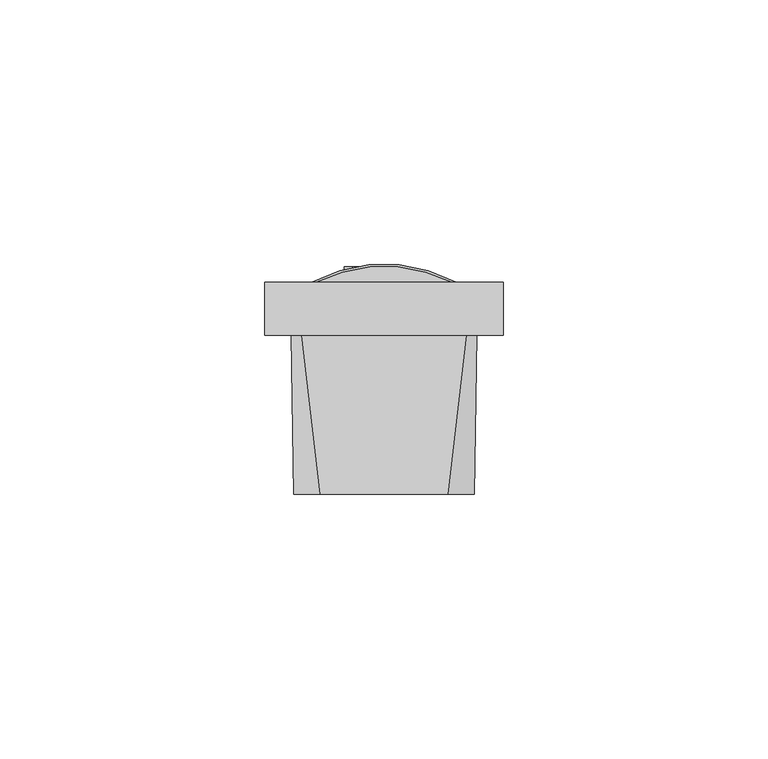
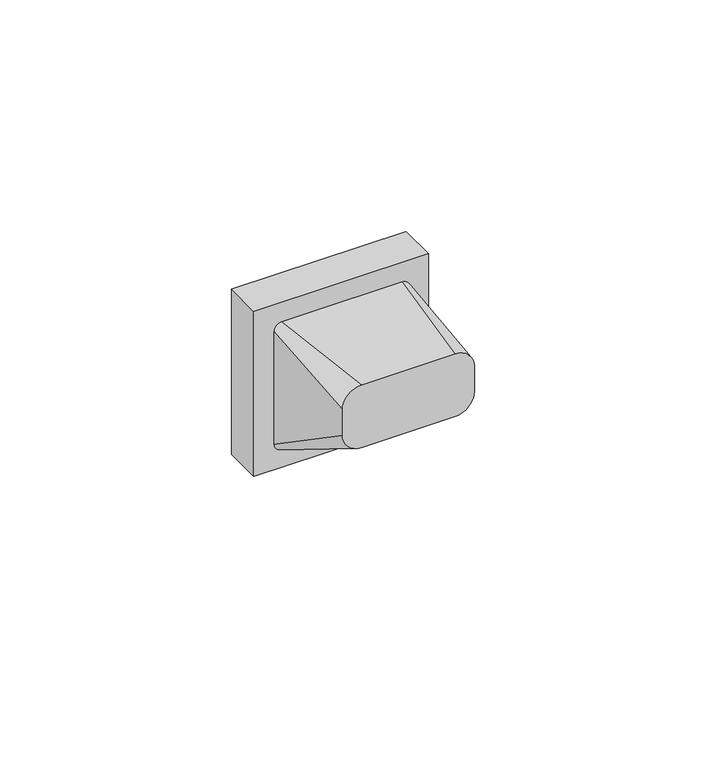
"""IFC4 building model written with IfcOpenShell, lengths in millimetres: proxy geometry, IEK_Skandy_Механизм выключателя : ДД_SK-S01B."""

from ifc_helpers import new_model, si_unit, point, frame, frame_2d, origin, place, context, project, spatial, polyline, circle_curve, trimmed, segment, composite_curve, outline, extrude, source, transform, mapped, element, save
from ifc_brep_helpers import plane_surface, cylinder_surface, revolved_surface, spline_surface, advanced_brep


def electrical_fixtures_6e65c7f1(model_context):
    return source(origin(), model_context, "Body", "SolidModel", [
        advanced_brep(
        [(-22.5, 10.0, -22.5), (-22.5, 10.0, 22.5), (22.5, 10.0, 22.5), (22.5, 10.0, -22.5), (6.0000251, 10.0, -11.1771032), (-6.0000251, 10.0, -11.1771032), (-6.0000251, 10.0, -15.1771032), (6.0000251, 10.0, -15.1771032), (-11.7452249, 10.0, -9.0), (11.7452249, 10.0, -9.0), (11.7452249, 10.0, 9.0), (-11.7452249, 10.0, 9.0), (12.7507341, 10.0, 11.0), (-12.7507341, 10.0, 11.0), (-12.7507341, 10.0, 10.0), (12.7507341, 10.0, 10.0), (-12.7507341, 10.0, -11.0), (12.7507341, 10.0, -11.0), (12.7507341, 10.0, -10.0), (-12.7507341, 10.0, -10.0), (-22.5, 0.0, -22.5), (22.5, 0.0, -22.5), (22.5, 0.0, 22.5), (-22.5, 0.0, 22.5), (6.0000251, 2.0, -11.1771032), (6.0000251, 2.0, -15.1771032), (-6.0000251, 2.0, -15.1771032), (-6.0000251, 2.0, -11.1771032), (-6.0000251, 2.0, -11.6771032), (-6.0000251, 2.0, -14.6771032), (-2.4374749, 2.0, -14.6771032), (-2.4374749, 2.0, -11.6771032), (6.4162542, 4.6710293, -9.0), (-6.4162542, 4.6710293, -9.0), (6.4162542, 4.6710293, 9.0), (-6.4162542, 4.6710293, 9.0), (-6.0000251, 12.9624821, -11.6771032), (-2.4374749, 12.9624821, -11.6771032), (-2.4374749, 12.9624821, -14.6771032), (-6.0000251, 12.9624821, -14.6771032)],
        [
            (0, 1),
            (1, 2),
            (2, 3),
            (3, 0),
            (4, 5),
            (5, 6, circle_curve(frame((-6.0000251, 10.0, -13.1771032), z_axis=(0.0, -1.0, 0.0), x_axis=(1.0, 0.0, 0.0)), 2.0)),
            (6, 7),
            (7, 4, circle_curve(frame((6.0000251, 10.0, -13.1771032), z_axis=(0.0, -1.0, 0.0), x_axis=(1.0, 0.0, 0.0)), 2.0)),
            (8, 9),
            (9, 10),
            (10, 11),
            (11, 8),
            (12, 13),
            (13, 14),
            (14, 15),
            (15, 12),
            (16, 17),
            (17, 18),
            (18, 19),
            (19, 16),
            (20, 21),
            (21, 22),
            (22, 23),
            (23, 20),
            (3, 21),
            (20, 0),
            (2, 22),
            (1, 23),
            (24, 25, circle_curve(frame((6.0000251, 2.0, -13.1771032), z_axis=(0.0, 1.0, 0.0), x_axis=(1.0, 0.0, 0.0)), 2.0)),
            (25, 26),
            (26, 27, circle_curve(frame((-6.0000251, 2.0, -13.1771032), z_axis=(0.0, 1.0, 0.0), x_axis=(1.0, 0.0, 0.0)), 2.0)),
            (27, 24),
            (28, 29, circle_curve(frame((-6.0000251, 2.0, -13.1771032), z_axis=(0.0, -1.0, 0.0), x_axis=(1.0, 0.0, 0.0)), 1.5)),
            (29, 30),
            (30, 31, circle_curve(frame((-2.4374749, 2.0, -13.1771032), z_axis=(0.0, -1.0, 0.0), x_axis=(1.0, 0.0, 0.0)), 1.5)),
            (31, 28),
            (27, 5),
            (4, 24),
            (26, 6),
            (25, 7),
            (32, 9),
            (8, 33),
            (33, 32),
            (34, 35),
            (35, 11),
            (10, 34),
            (32, 34),
            (33, 35),
            (12, 13, circle_curve(frame((0.0, -15.3680789, 11.0), z_axis=(0.0, 0.0, 1.0), x_axis=(1.0, 0.0, 0.0)), 28.3922638)),
            (14, 15, circle_curve(frame((0.0, -15.3680789, 10.0), z_axis=(0.0, 0.0, -1.0), x_axis=(1.0, 0.0, 0.0)), 28.3922638)),
            (16, 17, circle_curve(frame((0.0, -15.3680789, -11.0), z_axis=(0.0, 0.0, -1.0), x_axis=(0.0, -1.0, 0.0)), 28.3922638)),
            (18, 19, circle_curve(frame((0.0, -15.3680789, -10.0), z_axis=(0.0, 0.0, 1.0), x_axis=(0.0, -1.0, 0.0)), 28.3922638)),
            (36, 37),
            (37, 38, circle_curve(frame((-2.4374749, 12.9624821, -13.1771032), z_axis=(0.0, 1.0, 0.0), x_axis=(1.0, 0.0, 0.0)), 1.5)),
            (38, 39),
            (39, 36, circle_curve(frame((-6.0000251, 12.9624821, -13.1771032), z_axis=(0.0, 1.0, 0.0), x_axis=(1.0, 0.0, 0.0)), 1.5)),
            (39, 29),
            (28, 36),
            (38, 30),
            (37, 31),
        ],
        [
            plane_surface(frame((22.5, 10.0, -22.5), z_axis=(0.0, 1.0, 0.0), x_axis=(-1.0, 0.0, 0.0))),
            plane_surface(frame((22.5, 0.0, -22.5), z_axis=(0.0, -1.0, 0.0), x_axis=(1.0, 0.0, 0.0))),
            plane_surface(frame((-22.5, 0.0, -22.5), z_axis=(0.0, 0.0, -1.0), x_axis=(0.0, 1.0, 0.0))),
            plane_surface(frame((22.5, 0.0, -22.5), z_axis=(1.0, 0.0, 0.0), x_axis=(0.0, 1.0, 0.0))),
            plane_surface(frame((22.5, 0.0, 22.5), z_axis=(0.0, 0.0, 1.0), x_axis=(0.0, 1.0, 0.0))),
            plane_surface(frame((-22.5, 0.0, 22.5), z_axis=(-1.0, 0.0, 0.0), x_axis=(0.0, 1.0, 0.0))),
            plane_surface(frame((-6.0000251, 2.0, -11.1771032), z_axis=(0.0, 1.0, 0.0), x_axis=(-1.0, 0.0, 0.0))),
            plane_surface(frame((6.0000251, 2.0, -11.1771032), z_axis=(0.0, 0.0, -1.0), x_axis=(0.0, 1.0, 0.0))),
            revolved_surface(polyline([(-4.0000251, 2.0, -13.1771032), (-4.0000251, 10.0, -13.1771032)]), (-6.0000251, 10.0, -13.1771032), (0.0, -1.0, 0.0)),
            plane_surface(frame((-6.0000251, 2.0, -15.1771032), z_axis=(0.0, 0.0, 1.0), x_axis=(0.0, 1.0, 0.0))),
            revolved_surface(polyline([(8.0000251, 2.0, -13.1771032), (8.0000251, 10.0, -13.1771032)]), (6.0000251, 10.0, -13.1771032), (0.0, -1.0, 0.0)),
            plane_surface(frame((-10.9162542, 4.6710293, -9.0), z_axis=(0.0, 0.0, 1.0), x_axis=(-1.0, 0.0, 0.0))),
            plane_surface(frame((-10.9162542, 4.6710293, 9.0), z_axis=(0.0, 0.0, -1.0), x_axis=(1.0, 0.0, 0.0))),
            plane_surface(frame((11.7452249, 10.0, -9.0), z_axis=(-0.7071067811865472, 0.7071067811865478, 0.0), x_axis=(0.0, 0.0, 1.0))),
            plane_surface(frame((6.4162542, 4.6710293, -9.0), z_axis=(0.0, 1.0, 0.0), x_axis=(0.0, 0.0, 1.0))),
            plane_surface(frame((28.3922638, -15.3680789, 11.0), z_axis=(0.0, 0.0, 1.0), x_axis=(0.0, 1.0, 0.0))),
            plane_surface(frame((28.3922638, -15.3680789, 10.0), z_axis=(0.0, 0.0, -1.0), x_axis=(0.0, -1.0, 0.0))),
            cylinder_surface(frame((0.0, -15.3680789, 10.0), z_axis=(0.0, 0.0, 1.0), x_axis=(1.0, 0.0, 0.0)), 28.3922638),
            plane_surface(frame((-12.7507341, 10.0, -11.0), z_axis=(0.0, 0.0, -1.0), x_axis=(-1.0, 0.0, 0.0))),
            plane_surface(frame((-12.7507341, 10.0, -10.0), z_axis=(0.0, 0.0, 1.0), x_axis=(1.0, 0.0, 0.0))),
            cylinder_surface(frame((0.0, -15.3680789, -10.0), z_axis=(0.0, 0.0, -1.0), x_axis=(0.0, -1.0, 0.0)), 28.3922638),
            plane_surface(frame((-4.5000251, 12.9624821, -13.1771032), z_axis=(0.0, 1.0, 0.0), x_axis=(0.0, 0.0, -1.0))),
            cylinder_surface(frame((-6.0000251, 12.9624821, -13.1771032), z_axis=(0.0, -1.0, 0.0), x_axis=(1.0, 0.0, 0.0)), 1.5),
            plane_surface(frame((-6.0000251, 2.0, -14.6771032), z_axis=(0.0, 0.0, -1.0), x_axis=(0.0, 1.0, 0.0))),
            cylinder_surface(frame((-2.4374749, 12.9624821, -13.1771032), z_axis=(0.0, -1.0, 0.0), x_axis=(1.0, 0.0, 0.0)), 1.5),
            plane_surface(frame((-2.4374749, 2.0, -11.6771032), z_axis=(0.0, 0.0, 1.0), x_axis=(0.0, 1.0, 0.0))),
            plane_surface(frame((-6.4162542, 4.6710293, -9.0), z_axis=(0.707106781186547, 0.7071067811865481, 0.0), x_axis=(0.0, 0.0, 1.0))),
        ],
        [
            (0, [[1, 2, 3, 4], [5, 6, 7, 8], [9, 10, 11, 12], [13, 14, 15, 16], [17, 18, 19, 20]]),
            (1, [[21, 22, 23, 24]]),
            (2, [[-4, 25, -21, 26]]),
            (3, [[-3, 27, -22, -25]]),
            (4, [[-2, 28, -23, -27]]),
            (5, [[-1, -26, -24, -28]]),
            (6, [[29, 30, 31, 32], [33, 34, 35, 36]]),
            (7, [[-32, 37, -5, 38]]),
            (8, [[-31, 39, -6, -37]]),
            (9, [[-30, 40, -7, -39]]),
            (10, [[-29, -38, -8, -40]]),
            (11, [[41, -9, 42, 43]]),
            (12, [[44, 45, -11, 46]]),
            (13, [[-41, 47, -46, -10]]),
            (14, [[-43, 48, -44, -47]]),
            (15, [[49, -13]]),
            (16, [[50, -15]]),
            (17, [[-49, -16, -50, -14]]),
            (18, [[51, -17]]),
            (19, [[52, -19]]),
            (20, [[-51, -20, -52, -18]]),
            (21, [[53, 54, 55, 56]]),
            (22, [[-56, 57, -33, 58]]),
            (23, [[-55, 59, -34, -57]]),
            (24, [[-54, 60, -35, -59]]),
            (25, [[-53, -58, -36, -60]]),
            (26, [[-42, -12, -45, -48]]),
        ],
    ),
        extrude(outline(composite_curve([segment(polyline([(-11.7452249, 10.0), (-13.625, 10.0)]), True, "CONTINUOUS"), segment(trimmed(circle_curve(frame_2d((0.0, -15.3680789)), 28.7954866), [point((-13.625, 10.0))], [point((13.625, 10.0))], False, "CARTESIAN"), True, "CONTINUOUS"), segment(polyline([(13.625, 10.0), (11.7452249, 10.0)]), True, "CONTINUOUS"), segment(trimmed(circle_curve(frame_2d((0.0, -14.9047681)), 27.5353915), [point((11.7452249, 10.0))], [point((-11.7452249, 10.0))], True, "CARTESIAN"), True, "CONTINUOUS")], self_intersect=False)), frame((0.0, 0.0, -10.0), z_axis=(0.0, 0.0, 1.0), x_axis=(1.0, 0.0, 0.0)), (0.0, 0.0, 1.0), 20.0),
        advanced_brep(
        [(-12.0, -30.0, 17.0), (-17.0, -30.0, 12.0), (-17.0, -30.0, 5.0), (-12.0, -30.0, 0.0), (12.0, -30.0, 0.0), (17.0, -30.0, 5.0), (17.0, -30.0, 12.0), (12.0, -30.0, 17.0), (-15.5, 0.0, 17.5), (15.5, 0.0, 17.5), (17.5, 0.0, 15.5), (17.5, 0.0, -15.5), (15.5, 0.0, -17.5), (-15.5, 0.0, -17.5), (-17.5, 0.0, -15.5), (-17.5, 0.0, 15.5)],
        [
            (0, 1, circle_curve(frame((-12.0, -30.0, 12.0), z_axis=(0.0, -1.0, 0.0), x_axis=(1.0, 0.0, 0.0)), 5.0)),
            (1, 2),
            (2, 3, circle_curve(frame((-12.0, -30.0, 5.0), z_axis=(0.0, -1.0, 0.0), x_axis=(1.0, 0.0, 0.0)), 5.0)),
            (3, 4),
            (4, 5, circle_curve(frame((12.0, -30.0, 5.0), z_axis=(0.0, -1.0, 0.0), x_axis=(1.0, 0.0, 0.0)), 5.0)),
            (5, 6),
            (6, 7, circle_curve(frame((12.0, -30.0, 12.0), z_axis=(0.0, -1.0, 0.0), x_axis=(1.0, 0.0, 0.0)), 5.0)),
            (7, 0),
            (8, 9),
            (9, 10, circle_curve(frame((15.5, 0.0, 15.5), z_axis=(0.0, 1.0, 0.0), x_axis=(1.0, 0.0, 0.0)), 2.0)),
            (10, 11),
            (11, 12, circle_curve(frame((15.5, 0.0, -15.5), z_axis=(0.0, 1.0, 0.0), x_axis=(1.0, 0.0, 0.0)), 2.0)),
            (12, 13),
            (13, 14, circle_curve(frame((-15.5, 0.0, -15.5), z_axis=(0.0, 1.0, 0.0), x_axis=(1.0, 0.0, 0.0)), 2.0)),
            (14, 15),
            (15, 8, circle_curve(frame((-15.5, 0.0, 15.5), z_axis=(0.0, 1.0, 0.0), x_axis=(1.0, 0.0, 0.0)), 2.0)),
            (8, 0),
            (7, 9),
            (6, 10),
            (5, 11),
            (4, 12),
            (3, 13),
            (2, 14),
            (1, 15),
        ],
        [
            plane_surface(frame((0.0, -30.0, 8.5), z_axis=(0.0, -1.0, 0.0), x_axis=(-1.0, 0.0, 0.0))),
            plane_surface(frame((0.0, 0.0, 0.0), z_axis=(0.0, 1.0, 0.0), x_axis=(-1.0, 0.0, 0.0))),
            plane_surface(frame((0.0, 0.0, 17.5), z_axis=(0.0, -0.016664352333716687, 0.9998611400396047), x_axis=(-1.0, 0.0, 0.0))),
            spline_surface(2, 1, [[(17.5, 0.0, 15.5), (17.0, -30.0, 12.0)], [(17.5, 0.0, 17.5), (17.0, -30.0, 17.0)], [(15.5, 0.0, 17.5), (12.0, -30.0, 17.0)]], [3, 3], [2, 2], [0.0, 1.0], [0.0, 1.0], weights=[[1.0, 1.0], [0.7071067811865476, 0.7071067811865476], [1.0, 1.0]]),
            plane_surface(frame((17.5, 0.0, 0.0), z_axis=(0.9998611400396, -0.016664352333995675, 0.0), x_axis=(0.0, 0.0, 1.0))),
            spline_surface(2, 1, [[(15.5, 0.0, -17.5), (12.0, -30.0, 0.0)], [(17.5, 0.0, -17.5), (17.0, -30.0, 0.0)], [(17.5, 0.0, -15.5), (17.0, -30.0, 5.0)]], [3, 3], [2, 2], [0.0, 1.0], [0.0, 1.0], weights=[[1.0, 1.0], [0.7071067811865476, 0.7071067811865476], [1.0, 1.0]]),
            plane_surface(frame((0.0, 0.0, -17.5), z_axis=(0.0, -0.5038710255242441, -0.8637789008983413), x_axis=(1.0, 0.0, 0.0))),
            spline_surface(2, 1, [[(-17.5, 0.0, -15.5), (-17.0, -30.0, 5.0)], [(-17.5, 0.0, -17.5), (-17.0, -30.0, 0.0)], [(-15.5, 0.0, -17.5), (-12.0, -30.0, 0.0)]], [3, 3], [2, 2], [0.0, 1.0], [0.0, 1.0], weights=[[1.0, 1.0], [0.7071067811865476, 0.7071067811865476], [1.0, 1.0]]),
            plane_surface(frame((-17.5, 0.0, 0.0), z_axis=(-0.9998611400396, -0.01666435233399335, 0.0), x_axis=(0.0, 0.0, -1.0))),
            spline_surface(2, 1, [[(-15.5, 0.0, 17.5), (-12.0, -30.0, 17.0)], [(-17.5, 0.0, 17.5), (-17.0, -30.0, 17.0)], [(-17.5, 0.0, 15.5), (-17.0, -30.0, 12.0)]], [3, 3], [2, 2], [0.0, 1.0], [0.0, 1.0], weights=[[1.0, 1.0], [0.7071067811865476, 0.7071067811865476], [1.0, 1.0]]),
        ],
        [
            (0, [[1, 2, 3, 4, 5, 6, 7, 8]]),
            (1, [[9, 10, 11, 12, 13, 14, 15, 16]]),
            (2, [[-9, 17, -8, 18]]),
            (3, [[-10, -18, -7, 19]]),
            (4, [[-11, -19, -6, 20]]),
            (5, [[-12, -20, -5, 21]]),
            (6, [[-13, -21, -4, 22]]),
            (7, [[-14, -22, -3, 23]]),
            (8, [[-15, -23, -2, 24]]),
            (9, [[-16, -24, -1, -17]]),
        ],
    ),
    ])


if __name__ == "__main__":
    model = new_model("IFC4")
    model_context = context("Model", 3, world=origin())
    ifc_project = project(units=[si_unit("LENGTHUNIT", "METRE", prefix="MILLI")], contexts=[model_context])
    site = spatial("IfcSite", under=ifc_project)
    building = spatial("IfcBuilding", under=site)
    placement = place(None, origin())
    electrical_fixtures_shape = electrical_fixtures_6e65c7f1(model_context)
    element("IfcBuildingElementProxy", 1, Name="IEK_Skandy_Механизм выключателя : ДД_SK-S01B", ObjectType="IEK_Skandy_Механизм выключателя : ДД_SK-S01B", at=placement, inside=building, context=model_context, shape_type="MappedRepresentation", body=[
        mapped(electrical_fixtures_shape, transform((0.0, 0.0, 0.0), x_axis=(1.0, 0.0, 0.0), y_axis=(0.0, 1.0, 0.0), z_axis=(0.0, 0.0, 1.0))),
    ])
    save(model, "model.ifc")
